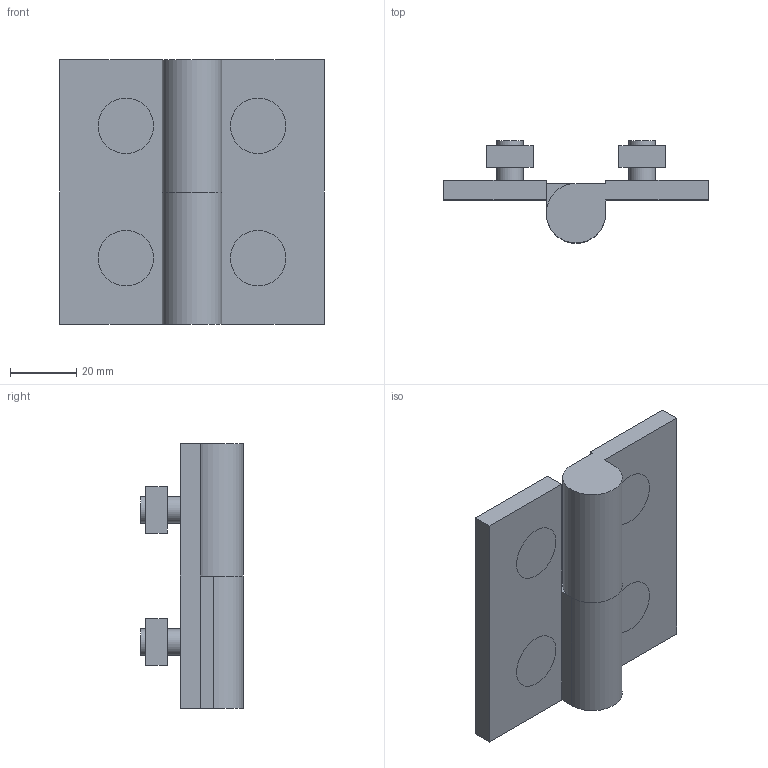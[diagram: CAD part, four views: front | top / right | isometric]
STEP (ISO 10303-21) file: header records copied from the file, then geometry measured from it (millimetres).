
FILE_DESCRIPTION((''),'2;1');
FILE_NAME('C:\Documents and Settings\古川典政\My Documents\Inventor\HP用\MasterData\ACCESSORY\M8\AHS-8080-8-L.stp','2008-08-05T16:52:26',(''),(''),'Autodesk Inventor 2008','Autodesk Inventor 2008','');
FILE_SCHEMA(('CONFIG_CONTROL_DESIGN'));
Length unit declared in the file: millimetre
Products named in the file (11): AHS-8080-8-L; AHS-8080-8-L1; AHS-8080-8-L2; AHS-8080-8-L3; AHS-8080-8-L4; AHS-8080-8-L5; AHS-8080-8-L6; AHS-8080-8-L7; AHS-8080-8-L8; AHS-8080-8-L9; AHS-8080-8-L10
Assembly tree (10 placements, depth 2):
  AHS-8080-8-L
    AHS-8080-8-L1
    AHS-8080-8-L2
    AHS-8080-8-L3
    AHS-8080-8-L4
    AHS-8080-8-L5
    AHS-8080-8-L6
    AHS-8080-8-L7
    AHS-8080-8-L8
    AHS-8080-8-L9
    AHS-8080-8-L10
Bounding box: 80 x 31 x 80 mm (x, y, z)
Volume: 57611.2 mm3; surface area: 24394.4 mm2
Topology: 10 solids, 10 shells, 72 faces, 154 edges, 102 vertices
Faces by surface type: plane 50, cylinder 8, bspline 8, cone 6
Full cylindrical faces by diameter (mm): 8 x4, 9 x2
Entity records: 2206 total; most frequent: CARTESIAN_POINT 449, DIRECTION 332, ORIENTED_EDGE 252, EDGE_CURVE 126, AXIS2_PLACEMENT_3D 121, EDGE_LOOP 108, VERTEX_POINT 94, VECTOR 90
